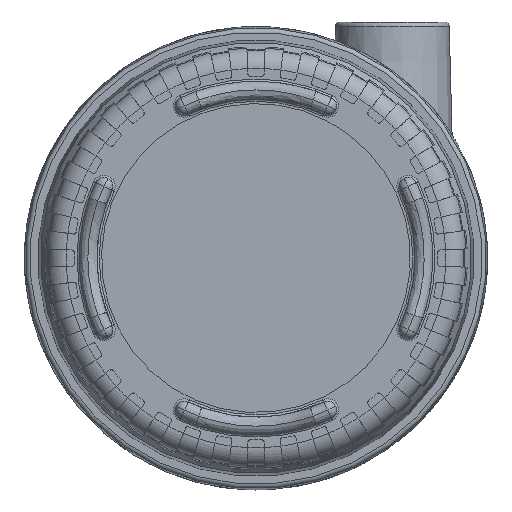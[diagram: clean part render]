
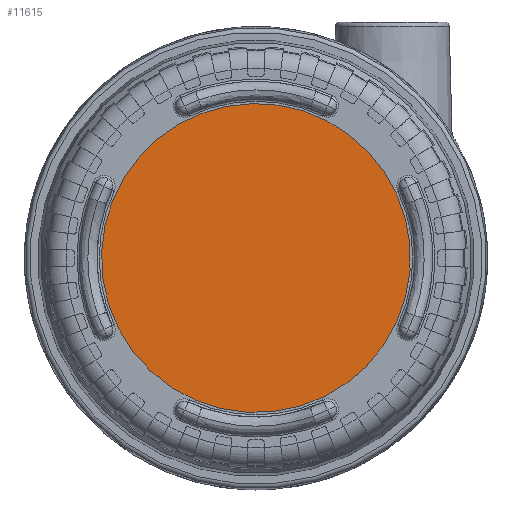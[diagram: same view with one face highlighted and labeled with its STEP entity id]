
A CAD part, top view. The second image highlights one B-rep face of the part: STEP entity #11615.
In plain terms, the highlighted planar face has unit normal (0, 0, 1).
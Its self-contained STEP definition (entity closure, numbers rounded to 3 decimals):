
#445=PLANE('',#12914);
#1044=FACE_OUTER_BOUND('',#1668,.T.);
#1668=EDGE_LOOP('',(#9597,#9598));
#2843=CIRCLE('',#12909,34.);
#2844=CIRCLE('',#12910,34.);
#4893=VERTEX_POINT('',#25522);
#4894=VERTEX_POINT('',#25523);
#6496=EDGE_CURVE('',#4893,#4894,#2843,.T.);
#6497=EDGE_CURVE('',#4894,#4893,#2844,.T.);
#9597=ORIENTED_EDGE('',*,*,#6497,.T.);
#9598=ORIENTED_EDGE('',*,*,#6496,.T.);
#11615=ADVANCED_FACE('',(#1044),#445,.T.);
#12909=AXIS2_PLACEMENT_3D('',#25524,#15795,#15796);
#12910=AXIS2_PLACEMENT_3D('',#25525,#15797,#15798);
#12914=AXIS2_PLACEMENT_3D('',#25531,#15806,#15807);
#15795=DIRECTION('center_axis',(0.,0.,
1.));
#15796=DIRECTION('ref_axis',(-0.707,0.707,0.));
#15797=DIRECTION('center_axis',(0.,0.,
1.));
#15798=DIRECTION('ref_axis',(-0.707,0.707,0.));
#15806=DIRECTION('center_axis',(0.,0.,
1.));
#15807=DIRECTION('ref_axis',(-1.,0.,0.));
#25522=CARTESIAN_POINT('',(33.85,3.189,86.));
#25523=CARTESIAN_POINT('',(-33.232,7.186,86.));
#25524=CARTESIAN_POINT('Origin',(0.,0.,
86.));
#25525=CARTESIAN_POINT('Origin',(0.,0.,
86.));
#25531=CARTESIAN_POINT('Origin',(0.,0.,
86.));
